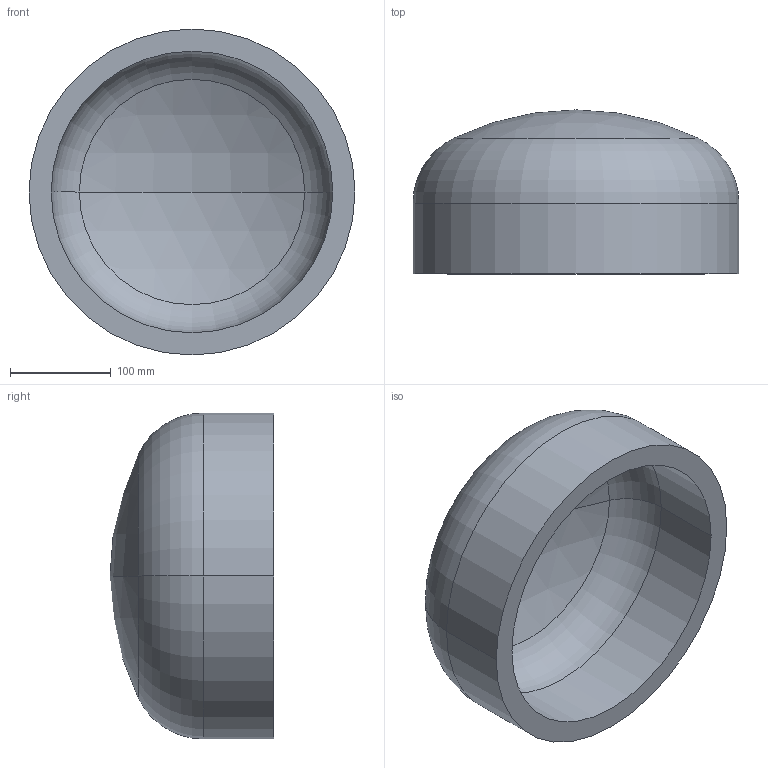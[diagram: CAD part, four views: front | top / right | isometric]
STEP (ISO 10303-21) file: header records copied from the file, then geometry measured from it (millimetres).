
FILE_DESCRIPTION (( 'STEP AP203' ), '1' );
FILE_NAME ('DIN 28013 Korbbogenform_-_Boden DIN 28013 - 323,9 x 70 - I - s=22.step', '2016-07-01T07:44:50', ( '' ), ( '' ), 'SwSTEP 2.0', 'SolidWorks 2013', '' );
FILE_SCHEMA (( 'CONFIG_CONTROL_DESIGN' ));
Length unit declared in the file: millimetre
Products named in the file (1): DIN 28013 Korbbogenform_-_Boden DIN 28013 - 323,9 x 70 - I - s=22
Bounding box: 323.9 x 162.9 x 323.9 mm (x, y, z)
Volume: 3767476.6 mm3; surface area: 364377.3 mm2
Topology: 1 solids, 1 shells, 13 faces, 24 edges, 14 vertices
Faces by surface type: torus 4, cylinder 4, sphere 4, plane 1
Entity records: 407 total; most frequent: DIRECTION 72, CARTESIAN_POINT 52, ORIENTED_EDGE 48, AXIS2_PLACEMENT_3D 34, EDGE_CURVE 24, CIRCLE 20, EDGE_LOOP 14, VERTEX_POINT 14
